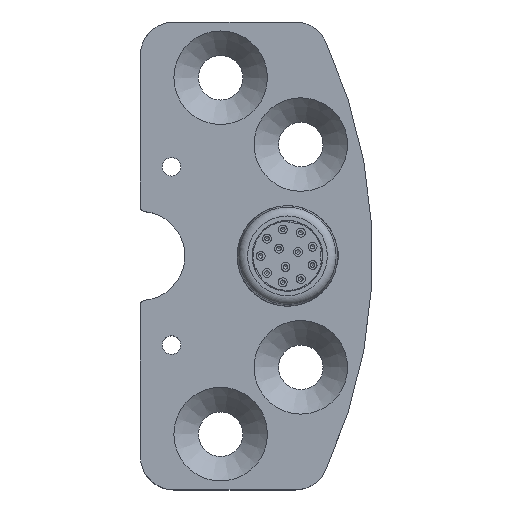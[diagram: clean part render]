
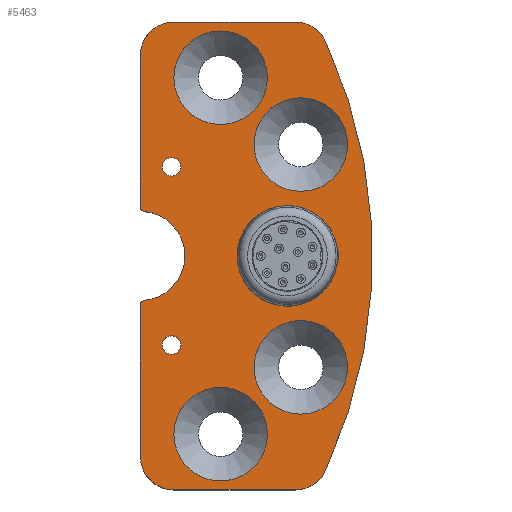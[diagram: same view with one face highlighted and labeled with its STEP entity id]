
A CAD part, top view. The second image highlights one B-rep face of the part: STEP entity #5463.
In plain terms, the highlighted planar face has unit normal (0, 0, 1).
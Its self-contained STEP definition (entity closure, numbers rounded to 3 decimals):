
#78=FACE_BOUND('',#855,.T.);
#79=FACE_BOUND('',#856,.T.);
#80=FACE_BOUND('',#857,.T.);
#81=FACE_BOUND('',#858,.T.);
#82=FACE_BOUND('',#859,.T.);
#83=FACE_BOUND('',#860,.T.);
#84=FACE_BOUND('',#861,.T.);
#188=PLANE('',#6110);
#531=FACE_OUTER_BOUND('',#854,.T.);
#854=EDGE_LOOP('',(#4727,#4728,#4729,#4730,#4731,#4732,#4733,#4734,#4735,
#4736,#4737,#4738));
#855=EDGE_LOOP('',(#4739,#4740));
#856=EDGE_LOOP('',(#4741,#4742));
#857=EDGE_LOOP('',(#4743,#4744));
#858=EDGE_LOOP('',(#4745,#4746));
#859=EDGE_LOOP('',(#4747,#4748));
#860=EDGE_LOOP('',(#4749));
#861=EDGE_LOOP('',(#4750));
#1168=CIRCLE('',#6023,1.);
#1180=CIRCLE('',#6037,10.);
#1181=CIRCLE('',#6039,1.);
#1187=CIRCLE('',#6048,11.3);
#1188=CIRCLE('',#6049,11.3);
#1196=CIRCLE('',#6064,7.5);
#1209=CIRCLE('',#6087,10.5);
#1210=CIRCLE('',#6088,10.5);
#1213=CIRCLE('',#6093,10.5);
#1214=CIRCLE('',#6094,10.5);
#1217=CIRCLE('',#6099,10.5);
#1218=CIRCLE('',#6100,10.5);
#1221=CIRCLE('',#6105,10.5);
#1222=CIRCLE('',#6106,10.5);
#1225=CIRCLE('',#6111,7.5);
#1226=CIRCLE('',#6112,7.5);
#1227=CIRCLE('',#6113,115.1);
#1228=CIRCLE('',#6114,7.5);
#1229=CIRCLE('',#6115,2.067);
#1230=CIRCLE('',#6116,2.067);
#1572=LINE('',#9933,#1938);
#1585=LINE('',#10020,#1951);
#1586=LINE('',#10024,#1952);
#1587=LINE('',#10031,#1953);
#1938=VECTOR('',#7614,10.);
#1951=VECTOR('',#7717,10.);
#1952=VECTOR('',#7720,10.);
#1953=VECTOR('',#7727,10.);
#2418=VERTEX_POINT('',#9802);
#2419=VERTEX_POINT('',#9804);
#2432=VERTEX_POINT('',#9834);
#2433=VERTEX_POINT('',#9838);
#2440=VERTEX_POINT('',#9897);
#2441=VERTEX_POINT('',#9899);
#2448=VERTEX_POINT('',#9927);
#2449=VERTEX_POINT('',#9929);
#2462=VERTEX_POINT('',#9971);
#2463=VERTEX_POINT('',#9972);
#2466=VERTEX_POINT('',#9983);
#2467=VERTEX_POINT('',#9984);
#2470=VERTEX_POINT('',#9995);
#2471=VERTEX_POINT('',#9996);
#2474=VERTEX_POINT('',#10007);
#2475=VERTEX_POINT('',#10008);
#2478=VERTEX_POINT('',#10019);
#2479=VERTEX_POINT('',#10021);
#2480=VERTEX_POINT('',#10023);
#2481=VERTEX_POINT('',#10025);
#2482=VERTEX_POINT('',#10027);
#2483=VERTEX_POINT('',#10029);
#2484=VERTEX_POINT('',#10032);
#2485=VERTEX_POINT('',#10034);
#3153=EDGE_CURVE('',#2418,#2419,#1168,.T.);
#3168=EDGE_CURVE('',#2432,#2419,#1180,.T.);
#3170=EDGE_CURVE('',#2432,#2433,#1181,.T.);
#3182=EDGE_CURVE('',#2441,#2440,#1187,.T.);
#3183=EDGE_CURVE('',#2440,#2441,#1188,.T.);
#3197=EDGE_CURVE('',#2448,#2449,#1196,.T.);
#3199=EDGE_CURVE('',#2433,#2448,#1572,.T.);
#3216=EDGE_CURVE('',#2462,#2463,#1209,.T.);
#3217=EDGE_CURVE('',#2463,#2462,#1210,.T.);
#3222=EDGE_CURVE('',#2466,#2467,#1213,.T.);
#3223=EDGE_CURVE('',#2467,#2466,#1214,.T.);
#3228=EDGE_CURVE('',#2470,#2471,#1217,.T.);
#3229=EDGE_CURVE('',#2471,#2470,#1218,.T.);
#3234=EDGE_CURVE('',#2474,#2475,#1221,.T.);
#3235=EDGE_CURVE('',#2475,#2474,#1222,.T.);
#3240=EDGE_CURVE('',#2478,#2418,#1585,.T.);
#3241=EDGE_CURVE('',#2479,#2478,#1225,.T.);
#3242=EDGE_CURVE('',#2480,#2479,#1586,.T.);
#3243=EDGE_CURVE('',#2481,#2480,#1226,.T.);
#3244=EDGE_CURVE('',#2482,#2481,#1227,.T.);
#3245=EDGE_CURVE('',#2483,#2482,#1228,.T.);
#3246=EDGE_CURVE('',#2449,#2483,#1587,.T.);
#3247=EDGE_CURVE('',#2484,#2484,#1229,.T.);
#3248=EDGE_CURVE('',#2485,#2485,#1230,.T.);
#4727=ORIENTED_EDGE('',*,*,#3153,.F.);
#4728=ORIENTED_EDGE('',*,*,#3240,.F.);
#4729=ORIENTED_EDGE('',*,*,#3241,.F.);
#4730=ORIENTED_EDGE('',*,*,#3242,.F.);
#4731=ORIENTED_EDGE('',*,*,#3243,.F.);
#4732=ORIENTED_EDGE('',*,*,#3244,.F.);
#4733=ORIENTED_EDGE('',*,*,#3245,.F.);
#4734=ORIENTED_EDGE('',*,*,#3246,.F.);
#4735=ORIENTED_EDGE('',*,*,#3197,.F.);
#4736=ORIENTED_EDGE('',*,*,#3199,.F.);
#4737=ORIENTED_EDGE('',*,*,#3170,.F.);
#4738=ORIENTED_EDGE('',*,*,#3168,.T.);
#4739=ORIENTED_EDGE('',*,*,#3182,.T.);
#4740=ORIENTED_EDGE('',*,*,#3183,.T.);
#4741=ORIENTED_EDGE('',*,*,#3216,.T.);
#4742=ORIENTED_EDGE('',*,*,#3217,.T.);
#4743=ORIENTED_EDGE('',*,*,#3222,.T.);
#4744=ORIENTED_EDGE('',*,*,#3223,.T.);
#4745=ORIENTED_EDGE('',*,*,#3228,.T.);
#4746=ORIENTED_EDGE('',*,*,#3229,.T.);
#4747=ORIENTED_EDGE('',*,*,#3234,.T.);
#4748=ORIENTED_EDGE('',*,*,#3235,.T.);
#4749=ORIENTED_EDGE('',*,*,#3247,.T.);
#4750=ORIENTED_EDGE('',*,*,#3248,.T.);
#5463=ADVANCED_FACE('',(#531,#78,#79,#80,#81,#82,#83,#84),#188,.T.);
#6023=AXIS2_PLACEMENT_3D('',#9805,#7514,#7515);
#6037=AXIS2_PLACEMENT_3D('',#9835,#7545,#7546);
#6039=AXIS2_PLACEMENT_3D('',#9839,#7550,#7551);
#6048=AXIS2_PLACEMENT_3D('',#9900,#7571,#7572);
#6049=AXIS2_PLACEMENT_3D('',#9901,#7573,#7574);
#6064=AXIS2_PLACEMENT_3D('',#9930,#7609,#7610);
#6087=AXIS2_PLACEMENT_3D('',#9973,#7661,#7662);
#6088=AXIS2_PLACEMENT_3D('',#9974,#7663,#7664);
#6093=AXIS2_PLACEMENT_3D('',#9985,#7675,#7676);
#6094=AXIS2_PLACEMENT_3D('',#9986,#7677,#7678);
#6099=AXIS2_PLACEMENT_3D('',#9997,#7689,#7690);
#6100=AXIS2_PLACEMENT_3D('',#9998,#7691,#7692);
#6105=AXIS2_PLACEMENT_3D('',#10009,#7703,#7704);
#6106=AXIS2_PLACEMENT_3D('',#10010,#7705,#7706);
#6110=AXIS2_PLACEMENT_3D('',#10018,#7715,#7716);
#6111=AXIS2_PLACEMENT_3D('',#10022,#7718,#7719);
#6112=AXIS2_PLACEMENT_3D('',#10026,#7721,#7722);
#6113=AXIS2_PLACEMENT_3D('',#10028,#7723,#7724);
#6114=AXIS2_PLACEMENT_3D('',#10030,#7725,#7726);
#6115=AXIS2_PLACEMENT_3D('',#10033,#7728,#7729);
#6116=AXIS2_PLACEMENT_3D('',#10035,#7730,#7731);
#7514=DIRECTION('center_axis',(0.,0.,-1.));
#7515=DIRECTION('ref_axis',(-0.739,0.674,0.));
#7545=DIRECTION('center_axis',(0.,0.,-1.));
#7546=DIRECTION('ref_axis',(1.,0.,0.));
#7550=DIRECTION('center_axis',(0.,0.,-1.));
#7551=DIRECTION('ref_axis',(-0.739,-0.674,0.));
#7571=DIRECTION('center_axis',(0.,0.,-1.));
#7572=DIRECTION('ref_axis',(1.,0.,0.));
#7573=DIRECTION('center_axis',(0.,0.,-1.));
#7574=DIRECTION('ref_axis',(1.,0.,0.));
#7609=DIRECTION('center_axis',(0.,0.,-1.));
#7610=DIRECTION('ref_axis',(-0.707,0.707,0.));
#7614=DIRECTION('',(0.,1.,0.));
#7661=DIRECTION('center_axis',(0.,0.,-1.));
#7662=DIRECTION('ref_axis',(1.,0.,0.));
#7663=DIRECTION('center_axis',(0.,0.,-1.));
#7664=DIRECTION('ref_axis',(1.,0.,0.));
#7675=DIRECTION('center_axis',(0.,0.,-1.));
#7676=DIRECTION('ref_axis',(1.,0.,0.));
#7677=DIRECTION('center_axis',(0.,0.,-1.));
#7678=DIRECTION('ref_axis',(1.,0.,0.));
#7689=DIRECTION('center_axis',(0.,0.,-1.));
#7690=DIRECTION('ref_axis',(1.,0.,0.));
#7691=DIRECTION('center_axis',(0.,0.,-1.));
#7692=DIRECTION('ref_axis',(1.,0.,0.));
#7703=DIRECTION('center_axis',(0.,0.,-1.));
#7704=DIRECTION('ref_axis',(1.,0.,0.));
#7705=DIRECTION('center_axis',(0.,0.,-1.));
#7706=DIRECTION('ref_axis',(1.,0.,0.));
#7715=DIRECTION('center_axis',(0.,0.,1.));
#7716=DIRECTION('ref_axis',(1.,0.,0.));
#7717=DIRECTION('',(0.,1.,0.));
#7718=DIRECTION('center_axis',(0.,0.,-1.));
#7719=DIRECTION('ref_axis',(-0.707,-0.707,0.));
#7720=DIRECTION('',(-1.,0.,0.));
#7721=DIRECTION('center_axis',(0.,0.,-1.));
#7722=DIRECTION('ref_axis',(0.539,-0.842,0.));
#7723=DIRECTION('center_axis',(0.,0.,-1.));
#7724=DIRECTION('ref_axis',(-0.89,0.456,0.));
#7725=DIRECTION('center_axis',(0.,0.,-1.));
#7726=DIRECTION('ref_axis',(0.539,0.842,0.));
#7727=DIRECTION('',(1.,0.,0.));
#7728=DIRECTION('center_axis',(0.,0.,-1.));
#7729=DIRECTION('ref_axis',(-1.,0.,0.));
#7730=DIRECTION('center_axis',(0.,0.,-1.));
#7731=DIRECTION('ref_axis',(-1.,0.,0.));
#9802=CARTESIAN_POINT('',(0.,-10.954,18.));
#9804=CARTESIAN_POINT('',(0.909,-9.959,18.));
#9805=CARTESIAN_POINT('Origin',(1.,-10.954,18.));
#9834=CARTESIAN_POINT('',(0.909,9.959,18.));
#9835=CARTESIAN_POINT('Origin',(0.,0.,18.));
#9838=CARTESIAN_POINT('',(0.,10.954,18.));
#9839=CARTESIAN_POINT('Origin',(1.,10.954,18.));
#9897=CARTESIAN_POINT('',(21.7,0.,18.));
#9899=CARTESIAN_POINT('',(44.3,0.,18.));
#9900=CARTESIAN_POINT('Origin',(33.,0.,18.));
#9901=CARTESIAN_POINT('Origin',(33.,0.,18.));
#9927=CARTESIAN_POINT('',(0.,45.,18.));
#9929=CARTESIAN_POINT('',(7.5,52.5,18.));
#9930=CARTESIAN_POINT('Origin',(7.5,45.,18.));
#9933=CARTESIAN_POINT('',(0.,-52.5,18.));
#9971=CARTESIAN_POINT('',(28.5,40.,18.));
#9972=CARTESIAN_POINT('',(7.5,40.,18.));
#9973=CARTESIAN_POINT('Origin',(18.,40.,18.));
#9974=CARTESIAN_POINT('Origin',(18.,40.,18.));
#9983=CARTESIAN_POINT('',(28.5,-40.,18.));
#9984=CARTESIAN_POINT('',(7.5,-40.,18.));
#9985=CARTESIAN_POINT('Origin',(18.,-40.,18.));
#9986=CARTESIAN_POINT('Origin',(18.,-40.,18.));
#9995=CARTESIAN_POINT('',(46.5,-25.,18.));
#9996=CARTESIAN_POINT('',(25.5,-25.,18.));
#9997=CARTESIAN_POINT('Origin',(36.,-25.,18.));
#9998=CARTESIAN_POINT('Origin',(36.,-25.,18.));
#10007=CARTESIAN_POINT('',(46.5,25.,18.));
#10008=CARTESIAN_POINT('',(25.5,25.,18.));
#10009=CARTESIAN_POINT('Origin',(36.,25.,18.));
#10010=CARTESIAN_POINT('Origin',(36.,25.,18.));
#10018=CARTESIAN_POINT('Origin',(22.806,0.,
18.));
#10019=CARTESIAN_POINT('',(0.,-45.,18.));
#10020=CARTESIAN_POINT('',(0.,-52.5,18.));
#10021=CARTESIAN_POINT('',(7.5,-52.5,18.));
#10022=CARTESIAN_POINT('Origin',(7.5,-45.,18.));
#10023=CARTESIAN_POINT('',(34.738,-52.5,18.));
#10024=CARTESIAN_POINT('',(39.429,-52.5,18.));
#10025=CARTESIAN_POINT('',(41.551,-48.137,18.));
#10026=CARTESIAN_POINT('Origin',(34.738,-45.,18.));
#10027=CARTESIAN_POINT('',(41.551,48.137,18.));
#10028=CARTESIAN_POINT('Origin',(-63.,0.,18.));
#10029=CARTESIAN_POINT('',(34.738,52.5,18.));
#10030=CARTESIAN_POINT('Origin',(34.738,45.,18.));
#10031=CARTESIAN_POINT('',(0.,52.5,18.));
#10032=CARTESIAN_POINT('',(9.067,20.,18.));
#10033=CARTESIAN_POINT('Origin',(7.,20.,18.));
#10034=CARTESIAN_POINT('',(9.067,-20.,18.));
#10035=CARTESIAN_POINT('Origin',(7.,-20.,18.));
